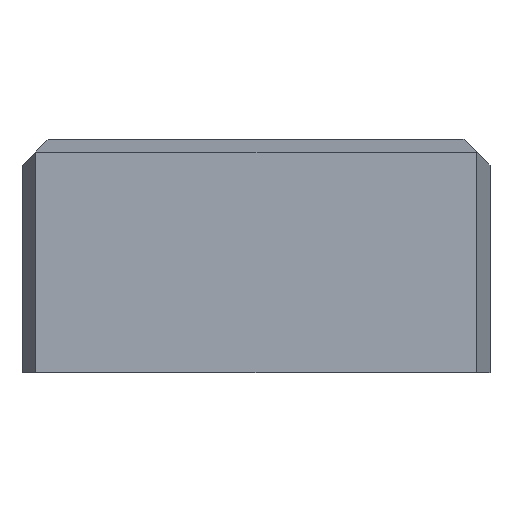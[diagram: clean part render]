
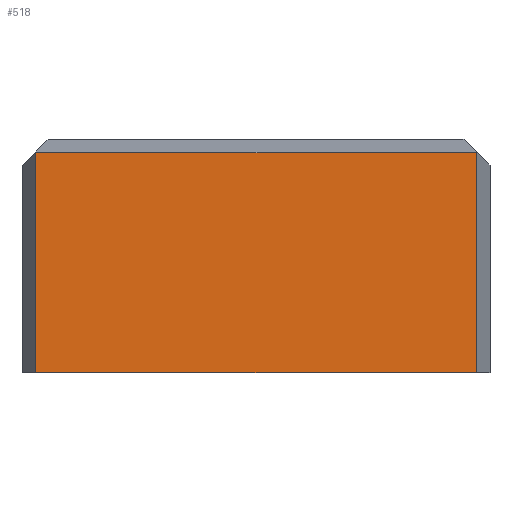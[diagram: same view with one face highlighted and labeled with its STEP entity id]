
A CAD part, front view. The second image highlights one B-rep face of the part: STEP entity #518.
In plain terms, the highlighted planar face has unit normal (0, -1, 0).
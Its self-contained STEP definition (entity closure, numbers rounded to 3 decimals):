
#98=CARTESIAN_POINT('Vertex',(42.321,0.,-45.)) ;
#101=CARTESIAN_POINT('Line Origine',(0.,0.,-45.)) ;
#105=CARTESIAN_POINT('Vertex',(-42.321,0.,-45.)) ;
#479=CARTESIAN_POINT('Vertex',(42.321,0.,-2.679)) ;
#482=CARTESIAN_POINT('Line Origine',(42.321,0.,-23.84)) ;
#495=CARTESIAN_POINT('Axis2P3D Location',(-42.321,0.,-45.)) ;
#500=CARTESIAN_POINT('Line Origine',(0.,0.,-2.679)) ;
#504=CARTESIAN_POINT('Vertex',(-42.321,0.,-2.679)) ;
#507=CARTESIAN_POINT('Line Origine',(-42.321,0.,-23.84)) ;
#102=DIRECTION('Vector Direction',(1.,0.,0.)) ;
#483=DIRECTION('Vector Direction',(0.,0.,1.)) ;
#496=DIRECTION('Axis2P3D Direction',(0.,-1.,0.)) ;
#497=DIRECTION('Axis2P3D XDirection',(0.,0.,-1.)) ;
#501=DIRECTION('Vector Direction',(-1.,0.,0.)) ;
#508=DIRECTION('Vector Direction',(0.,0.,1.)) ;
#498=AXIS2_PLACEMENT_3D('Plane Axis2P3D',#495,#496,#497) ;
#513=ORIENTED_EDGE('',*,*,#486,.T.) ;
#514=ORIENTED_EDGE('',*,*,#506,.T.) ;
#515=ORIENTED_EDGE('',*,*,#511,.F.) ;
#516=ORIENTED_EDGE('',*,*,#107,.T.) ;
#103=VECTOR('Line Direction',#102,1.) ;
#484=VECTOR('Line Direction',#483,1.) ;
#502=VECTOR('Line Direction',#501,1.) ;
#509=VECTOR('Line Direction',#508,1.) ;
#518=ADVANCED_FACE('A927-90X200X45',(#517),#499,.T.) ;
#107=EDGE_CURVE('',#106,#99,#104,.T.) ;
#486=EDGE_CURVE('',#99,#480,#485,.T.) ;
#506=EDGE_CURVE('',#480,#505,#503,.T.) ;
#511=EDGE_CURVE('',#106,#505,#510,.T.) ;
#512=EDGE_LOOP('',(#513,#514,#515,#516)) ;
#517=FACE_OUTER_BOUND('',#512,.T.) ;
#104=LINE('Line',#101,#103) ;
#485=LINE('Line',#482,#484) ;
#503=LINE('Line',#500,#502) ;
#510=LINE('Line',#507,#509) ;
#499=PLANE('Plane',#498) ;
#99=VERTEX_POINT('',#98) ;
#106=VERTEX_POINT('',#105) ;
#480=VERTEX_POINT('',#479) ;
#505=VERTEX_POINT('',#504) ;
